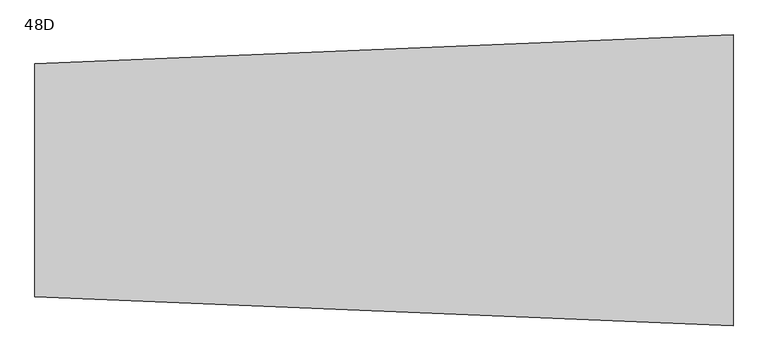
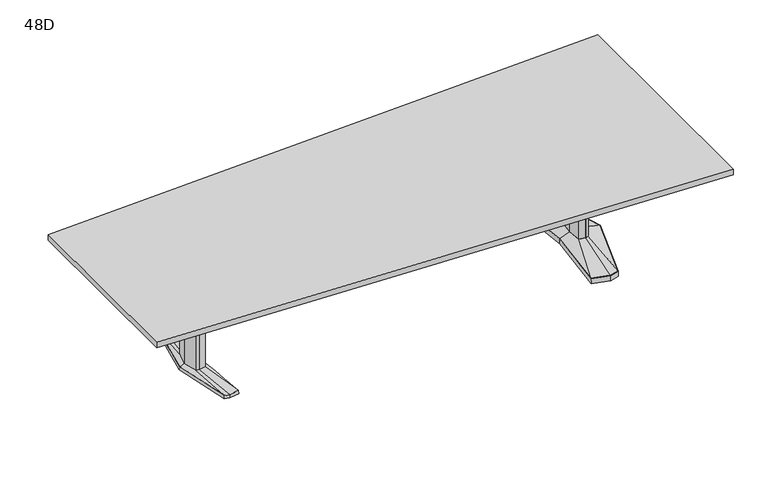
"""IFC4 building model written with IfcOpenShell, lengths in millimetres: furniture geometry, Coalesse_AM_Table_Conference_ETable2_Trapezoid_12ft_AluminiumBase : 48D."""

from ifc_helpers import new_model, si_unit, frame, origin, place, context, project, spatial, polyline, outline, extrude, faceted_brep, source, transform, mapped, element, save
from ifc_brep_helpers import plane_surface, spline_surface, advanced_brep


def furniture_48d_e5d0c791(model_context):
    return source(origin(), model_context, "Body", "SolidModel", [
        faceted_brep([(1210.6306835, 455.5848221, 38.1), (1101.0531277, 426.2263816, 38.1), (1142.2163717, 0.0, 38.1), (1101.0531277, -426.2263816, 38.1), (1210.6306835, -455.5848221, 38.1), (1266.7570396, -440.5478297, 38.1), (1404.0684269, 0.0, 38.1), (1266.7570396, 440.5478297, 38.1), (1210.6306754, 457.2283104, 3.175), (1268.0124472, 441.8549756, 3.175), (1405.73125, 0.0, 3.175), (1268.0124472, -441.8549756, 3.175), (1210.6306754, -457.2283104, 3.175), (1099.34375, -427.4118891, 3.175), (1140.6214856, 0.0, 3.175), (1099.34375, 427.4118891, 3.175), (1214.220115, 428.3273875, 3.175), (1109.1718228, 402.1057253, 3.175), (1117.290518, 377.985069, 3.175), (1217.8095466, 401.0699529, 3.175), (1268.3691725, 387.524361, 3.175), (1267.5631061, 414.0360954, 3.175), (1214.220115, -428.3273875, 3.175), (1267.5631061, -414.0360954, 3.175), (1268.3691725, -387.524361, 3.175), (1217.8095466, -401.0699529, 3.175), (1117.290518, -377.985069, 3.175), (1109.1718228, -402.1057253, 3.175), (1340.8153621, 0.0, 3.175), (1308.5459611, 120.4193755, 3.175), (1259.8987222, 133.471665, 3.175), (1180.0180526, 119.4176561, 3.175), (1168.8868466, 0.0, 3.175), (1180.0180526, -119.4176561, 3.175), (1259.8987222, -133.471665, 3.175), (1308.5459611, -120.4193755, 3.175), (1214.220115, 428.3273875, 0.0), (1267.5631061, 414.0360954, 0.0), (1268.3691725, 387.524361, 0.0), (1217.8095466, 401.0699529, 0.0), (1117.290518, 377.985069, 0.0), (1109.1718228, 402.1057253, 0.0), (1214.220115, -428.3273875, 0.0), (1109.1718228, -402.1057253, 0.0), (1117.290518, -377.985069, 0.0), (1217.8095466, -401.0699529, 0.0), (1268.3691725, -387.524361, 0.0), (1267.5631061, -414.0360954, 0.0), (1340.8153621, 0.0, 0.0), (1308.5459611, -120.4193755, 0.0), (1259.8987222, -133.471665, 0.0), (1180.0180526, -119.4176561, 0.0), (1168.8868466, 0.0, 0.0), (1180.0180526, 119.4176561, 0.0), (1259.8987222, 133.471665, 0.0), (1308.5459611, 120.4193755, 0.0)], [[[0, 1, 2, 3, 4, 5, 6, 7]], [[8, 9, 10, 11, 12, 13, 14, 15], [16, 17, 18, 19, 20, 21], [22, 23, 24, 25, 26, 27], [28, 29, 30, 31, 32, 33, 34, 35]], [[7, 9, 8, 0]], [[6, 10, 9, 7]], [[5, 11, 10, 6]], [[4, 12, 11, 5]], [[3, 13, 12, 4]], [[2, 14, 13, 3]], [[1, 15, 14, 2]], [[0, 8, 15, 1]], [[36, 37, 38, 39, 40, 41]], [[42, 43, 44, 45, 46, 47]], [[48, 49, 50, 51, 52, 53, 54, 55]], [[36, 16, 21, 37]], [[37, 21, 20, 38]], [[38, 20, 19, 39]], [[39, 19, 18, 40]], [[40, 18, 17, 41]], [[41, 17, 16, 36]], [[42, 22, 27, 43]], [[43, 27, 26, 44]], [[44, 26, 25, 45]], [[45, 25, 24, 46]], [[46, 24, 23, 47]], [[47, 23, 22, 42]], [[48, 28, 35, 49]], [[49, 35, 34, 50]], [[50, 34, 33, 51]], [[51, 33, 32, 52]], [[52, 32, 31, 53]], [[53, 31, 30, 54]], [[54, 30, 29, 55]], [[55, 29, 28, 48]]]),
        faceted_brep([(1301.3710836, 0.0, 698.5), (1277.4358546, 89.3188359, 698.5), (1260.5824984, 93.8406728, 698.5), (1258.1826511, 94.4845635, 698.5), (1215.255146, 86.9320037, 698.5), (1207.1520056, 0.0, 698.5), (1215.255146, -86.9320037, 698.5), (1258.1826511, -94.4845635, 698.5), (1260.5824984, -93.8406728, 698.5), (1277.4358546, -89.3188359, 698.5), (1301.3710836, 0.0, 63.5), (1277.4358546, -89.3188359, 63.5), (1260.5824984, -93.8406728, 63.5), (1258.1826511, -94.4845635, 63.5), (1215.255146, -86.9320037, 63.5), (1207.1520056, 0.0, 63.5), (1215.255146, 86.9320037, 63.5), (1258.1826511, 94.4845635, 63.5), (1260.5824984, 93.8406728, 63.5), (1277.4358546, 89.3188359, 63.5)], [[[0, 1, 2, 3, 4, 5, 6, 7, 8, 9]], [[10, 11, 12, 13, 14, 15, 16, 17, 18, 19]], [[9, 11, 10, 0]], [[8, 12, 11, 9]], [[7, 13, 12, 8]], [[6, 14, 13, 7]], [[5, 15, 14, 6]], [[4, 16, 15, 5]], [[3, 17, 16, 4]], [[2, 18, 17, 3]], [[1, 19, 18, 2]], [[0, 10, 19, 1]]]),
        advanced_brep(
        [(1258.1826511, 94.4845635, 63.5), (1215.255146, 86.9320037, 63.5), (1207.1520056, 0.0, 63.5), (1215.255146, -86.9320037, 63.5), (1258.1826511, -94.4845635, 63.5), (1277.4358546, -89.3188359, 63.5), (1301.3710836, 0.0, 63.5), (1277.4358546, 89.3188359, 63.5), (1210.6306835, 455.5848221, 38.1), (1266.7570396, 440.5478297, 38.1), (1404.0684269, 0.0, 38.1), (1266.7570396, -440.5478297, 38.1), (1210.6306835, -455.5848221, 38.1), (1101.0531277, -426.2263816, 38.1), (1142.2163717, 0.0, 38.1), (1101.0531277, 426.2263816, 38.1)],
        [
            (0, 1),
            (1, 2),
            (2, 3),
            (3, 4),
            (4, 5),
            (5, 6),
            (6, 7),
            (7, 0),
            (8, 9),
            (9, 10),
            (10, 11),
            (11, 12),
            (12, 13),
            (13, 14),
            (14, 15),
            (15, 8),
            (8, 0),
            (7, 9),
            (6, 10),
            (5, 11),
            (4, 12),
            (3, 13),
            (2, 14),
            (1, 15),
        ],
        [
            plane_surface(frame((1251.2837991, 0.0, 63.5), z_axis=(0.0, 0.0, 1.0), x_axis=(-0.25884244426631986, -0.9659195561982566, 0.0))),
            plane_surface(frame((1212.8958125, 0.0, 38.1), z_axis=(0.0, 0.0, -1.0), x_axis=(-0.25884244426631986, -0.9659195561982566, 0.0))),
            spline_surface(1, 1, [[(1210.6306835, 455.5848221, 38.1), (1266.7570396, 440.5478297, 38.1)], [(1258.1826511, 94.4845635, 63.5), (1277.4358546, 89.3188359, 63.5)]], [2, 2], [2, 2], [0.0, 1.0], [0.0, 1.0]),
            spline_surface(1, 1, [[(1266.7570396, 440.5478297, 38.1), (1404.0684269, 0.0, 38.1)], [(1277.4358546, 89.3188359, 63.5), (1301.3710836, 0.0, 63.5)]], [2, 2], [2, 2], [0.0, 1.0], [0.0, 1.0]),
            spline_surface(1, 1, [[(1404.0684269, 0.0, 38.1), (1266.7570396, -440.5478297, 38.1)], [(1301.3710836, 0.0, 63.5), (1277.4358546, -89.3188359, 63.5)]], [2, 2], [2, 2], [0.0, 1.0], [0.0, 1.0]),
            spline_surface(1, 1, [[(1266.7570396, -440.5478297, 38.1), (1210.6306835, -455.5848221, 38.1)], [(1277.4358546, -89.3188359, 63.5), (1258.1826511, -94.4845635, 63.5)]], [2, 2], [2, 2], [0.0, 1.0], [0.0, 1.0]),
            spline_surface(1, 1, [[(1210.6306835, -455.5848221, 38.1), (1101.0531277, -426.2263816, 38.1)], [(1258.1826511, -94.4845635, 63.5), (1215.255146, -86.9320037, 63.5)]], [2, 2], [2, 2], [0.0, 1.0], [0.0, 1.0]),
            spline_surface(1, 1, [[(1101.0531277, -426.2263816, 38.1), (1142.2163717, 0.0, 38.1)], [(1215.255146, -86.9320037, 63.5), (1207.1520056, 0.0, 63.5)]], [2, 2], [2, 2], [0.0, 1.0], [0.0, 1.0]),
            spline_surface(1, 1, [[(1142.2163717, 0.0, 38.1), (1101.0531277, 426.2263816, 38.1)], [(1207.1520056, 0.0, 63.5), (1215.255146, 86.9320037, 63.5)]], [2, 2], [2, 2], [0.0, 1.0], [0.0, 1.0]),
            spline_surface(1, 1, [[(1101.0531277, 426.2263816, 38.1), (1210.6306835, 455.5848221, 38.1)], [(1215.255146, 86.9320037, 63.5), (1258.1826511, 94.4845635, 63.5)]], [2, 2], [2, 2], [0.0, 1.0], [0.0, 1.0]),
        ],
        [
            (0, [[1, 2, 3, 4, 5, 6, 7, 8]]),
            (1, [[9, 10, 11, 12, 13, 14, 15, 16]]),
            (2, [[17, -8, 18, -9]]),
            (3, [[-18, -7, 19, -10]]),
            (4, [[-19, -6, 20, -11]]),
            (5, [[-20, -5, 21, -12]]),
            (6, [[-21, -4, 22, -13]]),
            (7, [[-22, -3, 23, -14]]),
            (8, [[-23, -2, 24, -15]]),
            (9, [[-24, -1, -17, -16]]),
        ],
    ),
        advanced_brep(
        [(-1222.0690971, -379.3768856, 25.4), (-1256.1982754, -94.605478, 36.5125), (-1275.4514743, -89.293702, 36.5125), (-1251.7944136, -371.5332654, 25.4), (-1158.9800038, -368.5071562, 25.4), (-1213.2708501, -87.0529327, 36.5125), (-1187.0577254, 0.3970149, 25.4), (-1205.1551707, 0.0, 36.5125), (-1158.9802502, 368.5172593, 25.4), (-1213.2708501, 87.0529327, 36.5125), (-1222.0689733, 379.3769183, 25.4), (-1256.1982754, 94.605478, 36.5125), (-1251.9722958, 371.4863276, 25.4), (-1275.4514743, 89.293702, 36.5125), (-1328.7039163, 0.0003516, 25.4), (-1299.3782751, 0.0, 36.5125), (-1185.4656242, 0.3968871, 3.175), (-1157.2875, -369.8264415, 3.175), (-1222.1400504, -381.0, 3.175), (-1253.1497317, -372.8174744, 3.175), (-1330.325, 0.0, 3.175), (-1253.3280745, 372.7704151, 3.175), (-1222.1400504, 381.0, 3.175), (-1157.2875, 369.8367279, 3.175), (-1256.8166764, 107.6121478, 3.175), (-1285.8370973, 99.6056872, 3.175), (-1312.5270585, 0.0, 3.175), (-1285.8370973, -99.6056872, 3.175), (-1256.8166764, -107.6121478, 3.175), (-1201.5252951, -97.8843184, 3.175), (-1192.3998387, 0.0, 3.175), (-1201.5252951, 97.8843184, 3.175), (-1220.6474312, 346.9152841, 3.175), (-1254.7732026, 337.9105158, 3.175), (-1255.8913109, 324.4807859, 3.175), (-1220.0788144, 333.9306305, 3.175), (-1167.4077418, 324.8641942, 3.175), (-1164.9998871, 337.3364985, 3.175), (-1220.6474312, -346.9152841, 3.175), (-1164.9998871, -337.3364985, 3.175), (-1167.4077418, -324.8641942, 3.175), (-1220.0788144, -333.9306305, 3.175), (-1255.8913109, -324.4807859, 3.175), (-1254.7732026, -337.9105158, 3.175), (-1256.8166764, 107.6121478, 0.0), (-1201.5252951, 97.8843184, 0.0), (-1192.3998387, 0.0, 0.0), (-1201.5252951, -97.8843184, 0.0), (-1256.8166764, -107.6121478, 0.0), (-1285.8370973, -99.6056872, 0.0), (-1312.5270585, 0.0, 0.0), (-1285.8370973, 99.6056872, 0.0), (-1220.6474312, 346.9152841, 0.0), (-1164.9998871, 337.3364985, 0.0), (-1167.4077418, 324.8641942, 0.0), (-1220.0788144, 333.9306305, 0.0), (-1255.8913109, 324.4807859, 0.0), (-1254.7732026, 337.9105158, 0.0), (-1220.6474312, -346.9152841, 0.0), (-1254.7732026, -337.9105158, 0.0), (-1255.8913109, -324.4807859, 0.0), (-1220.0788144, -333.9306305, 0.0), (-1167.4077418, -324.8641942, 0.0), (-1164.9998871, -337.3364985, 0.0), (-1275.4514743, 89.293702, 698.5), (-1299.3782751, 0.0, 698.5), (-1275.4514743, -89.293702, 698.5), (-1256.1982754, -94.605478, 698.5), (-1213.2708501, -87.0529327, 698.5), (-1205.1551707, 0.0, 698.5), (-1213.2708501, 87.0529327, 698.5), (-1256.1982754, 94.605478, 698.5)],
        [
            (0, 1),
            (1, 2),
            (2, 3),
            (3, 0),
            (0, 4),
            (4, 5),
            (5, 1),
            (4, 6),
            (6, 7),
            (7, 5),
            (6, 8),
            (8, 9),
            (9, 7),
            (8, 10),
            (10, 11),
            (11, 9),
            (10, 12),
            (12, 13),
            (13, 11),
            (12, 14),
            (14, 15),
            (15, 13),
            (2, 15),
            (14, 3),
            (16, 17),
            (17, 18),
            (18, 19),
            (19, 20),
            (20, 21),
            (21, 22),
            (22, 23),
            (23, 16),
            (24, 25),
            (25, 26),
            (26, 27),
            (27, 28),
            (28, 29),
            (29, 30),
            (30, 31),
            (31, 24),
            (32, 33),
            (33, 34),
            (34, 35),
            (35, 36),
            (36, 37),
            (37, 32),
            (38, 39),
            (39, 40),
            (40, 41),
            (41, 42),
            (42, 43),
            (43, 38),
            (23, 8),
            (6, 16),
            (22, 10),
            (21, 12),
            (20, 14),
            (19, 3),
            (18, 0),
            (17, 4),
            (44, 45),
            (45, 46),
            (46, 47),
            (47, 48),
            (48, 49),
            (49, 50),
            (50, 51),
            (51, 44),
            (52, 53),
            (53, 54),
            (54, 55),
            (55, 56),
            (56, 57),
            (57, 52),
            (58, 59),
            (59, 60),
            (60, 61),
            (61, 62),
            (62, 63),
            (63, 58),
            (51, 25),
            (24, 44),
            (50, 26),
            (49, 27),
            (48, 28),
            (47, 29),
            (46, 30),
            (45, 31),
            (57, 33),
            (32, 52),
            (56, 34),
            (55, 35),
            (54, 36),
            (53, 37),
            (63, 39),
            (38, 58),
            (62, 40),
            (61, 41),
            (60, 42),
            (59, 43),
            (64, 65),
            (65, 66),
            (66, 67),
            (67, 68),
            (68, 69),
            (69, 70),
            (70, 71),
            (71, 64),
            (64, 13),
            (15, 65),
            (2, 66),
            (1, 67),
            (5, 68),
            (7, 69),
            (9, 70),
            (11, 71),
        ],
        [
            spline_surface(1, 1, [[(-1251.7944136, -371.5332654, 25.4), (-1275.4514743, -89.293702, 36.5125)], [(-1222.0690971, -379.3768856, 25.4), (-1256.1982754, -94.605478, 36.5125)]], [2, 2], [2, 2], [0.0, 1.0], [0.0, 1.0]),
            spline_surface(1, 1, [[(-1222.0690971, -379.3768856, 25.4), (-1256.1982754, -94.605478, 36.5125)], [(-1158.9800038, -368.5071562, 25.4), (-1213.2708501, -87.0529327, 36.5125)]], [2, 2], [2, 2], [0.0, 1.0], [0.0, 1.0]),
            spline_surface(1, 1, [[(-1158.9800038, -368.5071562, 25.4), (-1213.2708501, -87.0529327, 36.5125)], [(-1187.0577254, 0.3970149, 25.4), (-1205.1551707, 0.0, 36.5125)]], [2, 2], [2, 2], [0.0, 1.0], [0.0, 1.0]),
            spline_surface(1, 1, [[(-1187.0577254, 0.3970149, 25.4), (-1205.1551707, 0.0, 36.5125)], [(-1158.9802502, 368.5172593, 25.4), (-1213.2708501, 87.0529327, 36.5125)]], [2, 2], [2, 2], [0.0, 1.0], [0.0, 1.0]),
            spline_surface(1, 1, [[(-1158.9802502, 368.5172593, 25.4), (-1213.2708501, 87.0529327, 36.5125)], [(-1222.0689733, 379.3769183, 25.4), (-1256.1982754, 94.605478, 36.5125)]], [2, 2], [2, 2], [0.0, 1.0], [0.0, 1.0]),
            spline_surface(1, 1, [[(-1222.0689733, 379.3769183, 25.4), (-1256.1982754, 94.605478, 36.5125)], [(-1251.9722958, 371.4863276, 25.4), (-1275.4514743, 89.293702, 36.5125)]], [2, 2], [2, 2], [0.0, 1.0], [0.0, 1.0]),
            spline_surface(1, 1, [[(-1251.9722958, 371.4863276, 25.4), (-1275.4514743, 89.293702, 36.5125)], [(-1328.7039163, 0.0003516, 25.4), (-1299.3782751, 0.0, 36.5125)]], [2, 2], [2, 2], [0.0, 1.0], [0.0, 1.0]),
            spline_surface(1, 1, [[(-1328.7039163, 0.0003516, 25.4), (-1299.3782751, 0.0, 36.5125)], [(-1251.7944136, -371.5332654, 25.4), (-1275.4514743, -89.293702, 36.5125)]], [2, 2], [2, 2], [0.0, 1.0], [0.0, 1.0]),
            plane_surface(frame((-1222.6404414, 0.0450143, 3.175), z_axis=(0.0, 0.0, -1.0), x_axis=(0.9669048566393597, -0.2551372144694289, 0.0))),
            plane_surface(frame((-1171.3765621, 185.1168075, 3.175), z_axis=(0.9945699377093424, -0.07585840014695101, 0.0712470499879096), x_axis=(0.07605167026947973, 0.9971038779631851, 0.0))),
            plane_surface(frame((-1189.7137752, 375.418364, 3.175), z_axis=(0.1692071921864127, 0.9830019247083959, 0.07124704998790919), x_axis=(-0.985506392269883, 0.16963829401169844, 0.0))),
            plane_surface(frame((-1237.7340624, 376.8852076, 3.175), z_axis=(-0.2544888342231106, 0.9644476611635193, 0.07124704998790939), x_axis=(-0.9669048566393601, -0.25513721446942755, 0.0))),
            plane_surface(frame((-1291.8265372, 186.3852076, 3.175), z_axis=(-0.9768383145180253, 0.2017690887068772, 0.07124704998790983), x_axis=(-0.20228315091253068, -0.9793270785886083, 0.0))),
            plane_surface(frame((-1291.7373658, -186.4087372, 3.175), z_axis=(-0.9767507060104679, -0.20219276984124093, 0.07124704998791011), x_axis=(0.2027079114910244, -0.9792392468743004, 0.0))),
            plane_surface(frame((-1237.644891, -376.9087372, 3.175), z_axis=(-0.2544888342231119, -0.9644476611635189, 0.0712470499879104), x_axis=(0.9669048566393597, -0.2551372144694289, 0.0))),
            plane_surface(frame((-1189.7137752, -375.4132207, 3.175), z_axis=(0.16935861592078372, -0.982975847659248, 0.07124704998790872), x_axis=(0.9854802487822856, 0.16979010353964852, 0.0))),
            plane_surface(frame((-1171.3765621, -184.7147772, 3.175), z_axis=(0.9945820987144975, 0.07569878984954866, 0.07124704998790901), x_axis=(-0.07589165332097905, 0.9971160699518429, 0.0))),
            plane_surface(frame((-1259.5758979, 106.8509046, 0.0), z_axis=(0.0, 0.0, -1.0000000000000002), x_axis=(0.9639855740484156, 0.26595453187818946, 0.0))),
            plane_surface(frame((-1256.8166764, 107.6121478, 3.175), z_axis=(-0.26595453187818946, 0.9639855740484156, 0.0), x_axis=(0.0, 0.0, -1.0))),
            plane_surface(frame((-1285.8370973, 99.6056872, 3.175), z_axis=(-0.9659241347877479, 0.2588253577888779, 0.0), x_axis=(0.0, 0.0, -1.0))),
            plane_surface(frame((-1312.5270585, 0.0, 3.175), z_axis=(-0.9659241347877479, -0.2588253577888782, 0.0), x_axis=(0.0, 0.0, -1.0))),
            plane_surface(frame((-1285.8370973, -99.6056872, 3.175), z_axis=(-0.26595453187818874, -0.9639855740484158, 0.0), x_axis=(0.0, 0.0, -1.0))),
            plane_surface(frame((-1256.8166764, -107.6121478, 3.175), z_axis=(0.17327617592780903, -0.9848732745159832, 0.0), x_axis=(0.0, 0.0, -1.0))),
            plane_surface(frame((-1201.5252951, -97.8843184, 3.175), z_axis=(0.9956824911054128, -0.0928244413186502, 0.0), x_axis=(0.0, 0.0, -1.0))),
            plane_surface(frame((-1192.3998387, 0.0, 3.175), z_axis=(0.9956824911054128, 0.09282444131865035, 0.0), x_axis=(0.0, 0.0, -1.0))),
            plane_surface(frame((-1201.5252951, 97.8843184, 3.175), z_axis=(0.17327617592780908, 0.984873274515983, 0.0), x_axis=(0.0, 0.0, -1.0))),
            plane_surface(frame((-1220.6474312, 346.9152841, 3.175), z_axis=(-0.25513721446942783, 0.9669048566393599, 0.0), x_axis=(0.0, 0.0, -1.0))),
            plane_surface(frame((-1254.7732026, 337.9105158, 3.175), z_axis=(-0.9965521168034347, 0.0829691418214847, 0.0), x_axis=(0.0, 0.0, -1.0))),
            plane_surface(frame((-1255.8913109, 324.4807859, 3.175), z_axis=(0.25513721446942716, -0.9669048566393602, 0.0), x_axis=(0.0, 0.0, -1.0))),
            plane_surface(frame((-1220.0788144, 333.9306305, 3.175), z_axis=(-0.16963829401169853, -0.985506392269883, 0.0), x_axis=(0.0, 0.0, -1.0))),
            plane_surface(frame((-1167.4077418, 324.8641942, 3.175), z_axis=(0.9818699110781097, -0.18955600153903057, 0.0), x_axis=(0.0, 0.0, -1.0))),
            plane_surface(frame((-1164.9998871, 337.3364985, 3.175), z_axis=(0.16963829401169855, 0.9855063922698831, 0.0), x_axis=(0.0, 0.0, -1.0))),
            plane_surface(frame((-1220.6474312, -346.9152841, 3.175), z_axis=(0.1696382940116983, -0.9855063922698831, 0.0), x_axis=(0.0, 0.0, -1.0))),
            plane_surface(frame((-1164.9998871, -337.3364985, 3.175), z_axis=(0.9818699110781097, 0.18955600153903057, 0.0), x_axis=(0.0, 0.0, -1.0))),
            plane_surface(frame((-1167.4077418, -324.8641942, 3.175), z_axis=(-0.16963829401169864, 0.985506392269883, 0.0), x_axis=(0.0, 0.0, -1.0))),
            plane_surface(frame((-1220.0788144, -333.9306305, 3.175), z_axis=(0.2551372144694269, 0.9669048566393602, 0.0), x_axis=(0.0, 0.0, -1.0))),
            plane_surface(frame((-1255.8913109, -324.4807859, 3.175), z_axis=(-0.9965521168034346, -0.0829691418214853, 0.0), x_axis=(0.0, 0.0, -1.0))),
            plane_surface(frame((-1254.7732026, -337.9105158, 3.175), z_axis=(-0.2551372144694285, -0.9669048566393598, 0.0), x_axis=(0.0, 0.0, -1.0))),
            plane_surface(frame((-1299.3782751, 0.0, 698.5), z_axis=(0.0, 0.0, 1.0), x_axis=(-0.25882535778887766, -0.965924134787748, 0.0))),
            plane_surface(frame((-1275.4514743, 89.293702, 698.5), z_axis=(-0.965924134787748, 0.25882535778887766, 0.0), x_axis=(0.0, 0.0, -1.0))),
            plane_surface(frame((-1299.3782751, 0.0, 698.5), z_axis=(-0.965924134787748, -0.2588253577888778, 0.0), x_axis=(0.0, 0.0, -1.0))),
            plane_surface(frame((-1275.4514743, -89.293702, 698.5), z_axis=(-0.2659545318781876, -0.963985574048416, 0.0), x_axis=(0.0, 0.0, -1.0))),
            plane_surface(frame((-1256.1982754, -94.605478, 698.5), z_axis=(0.1732761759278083, -0.9848732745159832, 0.0), x_axis=(0.0, 0.0, -1.0))),
            plane_surface(frame((-1213.2708501, -87.0529327, 698.5), z_axis=(0.9956824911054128, -0.0928244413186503, 0.0), x_axis=(0.0, 0.0, -1.0))),
            plane_surface(frame((-1205.1551707, 0.0, 698.5), z_axis=(0.9956824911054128, 0.09282444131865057, 0.0), x_axis=(0.0, 0.0, -1.0))),
            plane_surface(frame((-1213.2708501, 87.0529327, 698.5), z_axis=(0.17327617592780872, 0.9848732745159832, 0.0), x_axis=(0.0, 0.0, -1.0))),
            plane_surface(frame((-1256.1982754, 94.605478, 698.5), z_axis=(-0.26595453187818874, 0.9639855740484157, 0.0), x_axis=(0.0, 0.0, -1.0))),
        ],
        [
            (0, [[1, 2, 3, 4]]),
            (1, [[-1, 5, 6, 7]]),
            (2, [[-6, 8, 9, 10]]),
            (3, [[-9, 11, 12, 13]]),
            (4, [[-12, 14, 15, 16]]),
            (5, [[-15, 17, 18, 19]]),
            (6, [[-18, 20, 21, 22]]),
            (7, [[-3, 23, -21, 24]]),
            (8, [[25, 26, 27, 28, 29, 30, 31, 32], [33, 34, 35, 36, 37, 38, 39, 40], [41, 42, 43, 44, 45, 46], [47, 48, 49, 50, 51, 52]]),
            (9, [[-32, 53, -11, 54]]),
            (10, [[-31, 55, -14, -53]]),
            (11, [[-30, 56, -17, -55]]),
            (12, [[-29, 57, -20, -56]]),
            (13, [[-28, 58, -24, -57]]),
            (14, [[-27, 59, -4, -58]]),
            (15, [[-26, 60, -5, -59]]),
            (16, [[-25, -54, -8, -60]]),
            (17, [[61, 62, 63, 64, 65, 66, 67, 68]]),
            (17, [[69, 70, 71, 72, 73, 74]]),
            (17, [[75, 76, 77, 78, 79, 80]]),
            (18, [[-68, 81, -33, 82]]),
            (19, [[-67, 83, -34, -81]]),
            (20, [[-66, 84, -35, -83]]),
            (21, [[-65, 85, -36, -84]]),
            (22, [[-64, 86, -37, -85]]),
            (23, [[-63, 87, -38, -86]]),
            (24, [[-62, 88, -39, -87]]),
            (25, [[-61, -82, -40, -88]]),
            (26, [[-74, 89, -41, 90]]),
            (27, [[-73, 91, -42, -89]]),
            (28, [[-72, 92, -43, -91]]),
            (29, [[-71, 93, -44, -92]]),
            (30, [[-70, 94, -45, -93]]),
            (31, [[-69, -90, -46, -94]]),
            (32, [[-80, 95, -47, 96]]),
            (33, [[-79, 97, -48, -95]]),
            (34, [[-78, 98, -49, -97]]),
            (35, [[-77, 99, -50, -98]]),
            (36, [[-76, 100, -51, -99]]),
            (37, [[-75, -96, -52, -100]]),
            (38, [[101, 102, 103, 104, 105, 106, 107, 108]]),
            (39, [[-101, 109, -22, 110]]),
            (40, [[-102, -110, -23, 111]]),
            (41, [[-103, -111, -2, 112]]),
            (42, [[-104, -112, -7, 113]]),
            (43, [[-105, -113, -10, 114]]),
            (44, [[-106, -114, -13, 115]]),
            (45, [[-107, -115, -16, 116]]),
            (46, [[-108, -116, -19, -109]]),
        ],
    ),
        extrude(outline(polyline([(96.8375, 698.5), (103.1875, 698.5), (103.1875, 476.25), (-103.1875, 476.25), (-103.1875, 698.5), (-96.8375, 698.5), (-96.8375, 482.6), (96.8375, 482.6), (96.8375, 698.5)])), frame((-1204.9125, 0.0, 0.0), z_axis=(1.0, 0.0, 0.0), x_axis=(0.0, 1.0, 0.0)), (0.0, 0.0, 1.0), 2412.20625),
        extrude(outline(polyline([(1828.8, 762.0), (1828.8, -762.0), (-1828.8, -609.6), (-1828.8, 609.6), (1828.8, 762.0)])), frame((0.0, 0.0, 698.5), z_axis=(0.0, 0.0, 1.0), x_axis=(1.0, 0.0, 0.0)), (0.0, 0.0, 1.0), 38.1),
    ])


if __name__ == "__main__":
    model = new_model("IFC4")
    model_context = context("Model", 3, world=origin())
    ifc_project = project(units=[si_unit("LENGTHUNIT", "METRE", prefix="MILLI")], contexts=[model_context])
    site = spatial("IfcSite", under=ifc_project)
    building = spatial("IfcBuilding", under=site)
    placement = place(None, origin())
    furniture_48d_shape = furniture_48d_e5d0c791(model_context)
    element("IfcFurniture", 1, ObjectType="Coalesse_AM_Table_Conference_ETable2_Trapezoid_12ft_AluminiumBase : 48D", at=placement, inside=building, context=model_context, shape_type="MappedRepresentation", body=[
        mapped(furniture_48d_shape, transform((0.0, 0.0, 0.0), x_axis=(1.0, 0.0, 0.0), y_axis=(0.0, 1.0, 0.0), z_axis=(0.0, 0.0, 1.0))),
    ])
    save(model, "model.ifc")
